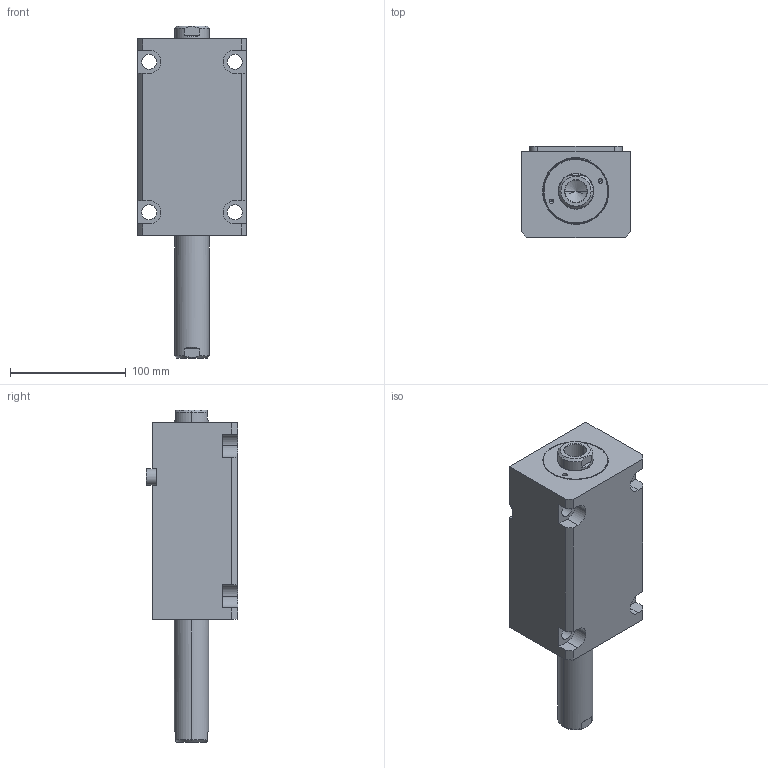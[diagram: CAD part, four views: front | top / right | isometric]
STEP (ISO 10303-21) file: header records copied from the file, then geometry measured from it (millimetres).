
FILE_DESCRIPTION (( 'STEP AP203' ), '1' );
FILE_NAME ('CHTB-LWM50-95N.STEP', '2018-05-22T06:28:13', ( '' ), ( '' ), 'SwSTEP 2.0', 'SolidWorks 2015', '' );
FILE_SCHEMA (( 'CONFIG_CONTROL_DESIGN' ));
Length unit declared in the file: millimetre
Products named in the file (4): 掛极LWM50-95N; CHTM-SDMA50QG; CHTB-LWM50-95N; 活塞杆LWM50-95N
Assembly tree (3 placements, depth 2):
  CHTB-LWM50-95N
    掛极LWM50-95N
    CHTM-SDMA50QG
    活塞杆LWM50-95N
Bounding box: 94 x 79 x 287 mm (x, y, z)
Volume: 1073230.1 mm3; surface area: 158097.6 mm2
Topology: 3 solids, 3 shells, 213 faces, 571 edges, 374 vertices
Faces by surface type: cylinder 104, plane 57, cone 22, torus 16, bspline 14
Entity records: 11569 total; most frequent: CARTESIAN_POINT 6050, ORIENTED_EDGE 1126, DIRECTION 1011, EDGE_CURVE 563, AXIS2_PLACEMENT_3D 396, VERTEX_POINT 374, EDGE_LOOP 247, LINE 219
